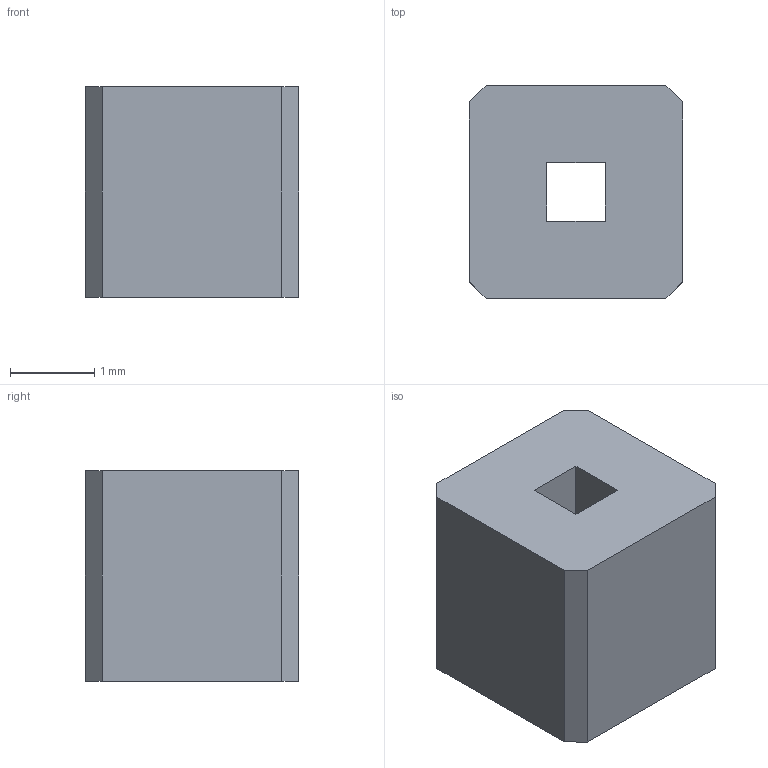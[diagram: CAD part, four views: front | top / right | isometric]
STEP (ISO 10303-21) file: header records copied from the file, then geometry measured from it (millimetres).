
FILE_DESCRIPTION(/* description */ ('STEP AP242 Edition 2','CAx-IF Rec.Pracs.---Representation and Presentation of Product Manufacturing Information (PMI)---4.0---2014-10-13','CAx-IF Rec.Pracs.---3D Tessellated Geometry---0.4---2014-09-14','2;1','CAx-IF Rec.Pracs.---User Defined Attributes---1.5---2016-08-15'),/* implementation_level */ '2;1');
FILE_NAME(/* name */ 'Drone Layout - Surface 99',/* time_stamp */ '2026-10-04T22:23:01Z',/* author */ (''),/* organization */ (''),/* preprocessor_version */ 'ST-DEVELOPER v20',/* originating_system */ 'ONSHAPE BY PTC INC, 1.221',/* authorisation */ ' ');
FILE_SCHEMA (('AP242_MANAGED_MODEL_BASED_3D_ENGINEERING_MIM_LF { 1 0 10303 442 3 1 4 }'));
Length unit declared in the file: metre
Products named in the file (1): Pin (1):1__PinBase_6
Bounding box: 2.54 x 2.54 x 2.5 mm (x, y, z)
Volume: 14.7 mm3; surface area: 43 mm2
Topology: 1 solids, 1 shells, 14 faces, 36 edges, 24 vertices
Faces by surface type: plane 14
Entity records: 437 total; most frequent: CARTESIAN_POINT 75, ORIENTED_EDGE 72, DIRECTION 66, EDGE_CURVE 36, LINE 36, VECTOR 36, VERTEX_POINT 24, EDGE_LOOP 16
